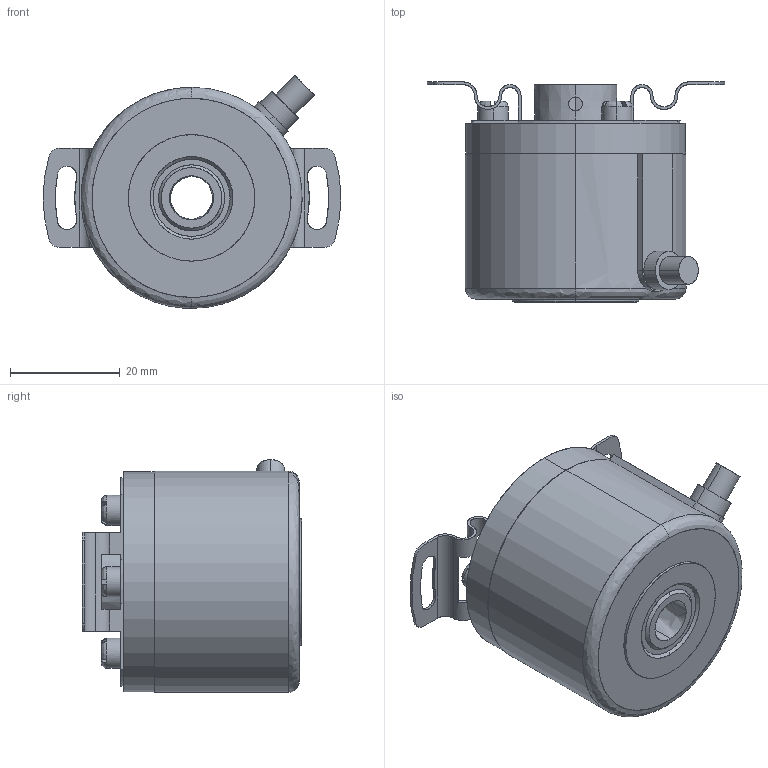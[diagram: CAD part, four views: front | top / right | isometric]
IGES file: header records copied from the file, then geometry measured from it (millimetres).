
Start section: SolidWorks IGES file using analytic representation for surfaces
Global section: file name: O:\08-Produkte_DatBlät&Beiblät&PrLi&Appl&Wettb\8-1 Megatron\GM-Design 3D-Modelle\Winkelsensoren\MHL40\MHL40.IGS; native system: SolidWorks 2012; preprocessor: SolidWorks 2012; author: AlessandroC; date: 120606.141133; units: millimetre
Bounding box: 54.16 x 40 x 42.33 mm (x, y, z)
Surface area: 9598.3 mm2 (no closed solid volume)
Topology: 0 solids, 0 shells, 190 faces, 3425 edges, 3425 vertices
Faces by surface type: bspline 106, revolution 84
